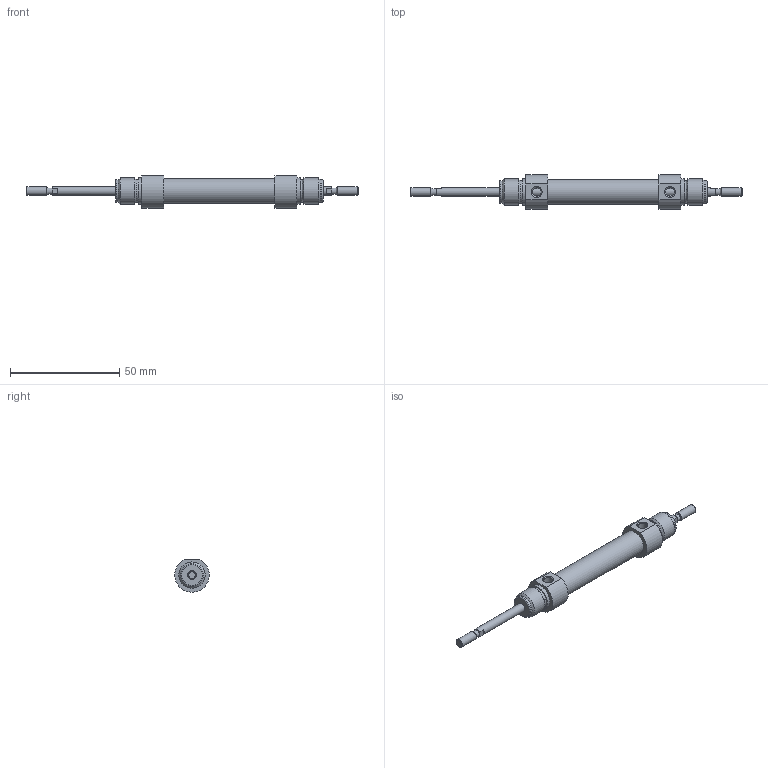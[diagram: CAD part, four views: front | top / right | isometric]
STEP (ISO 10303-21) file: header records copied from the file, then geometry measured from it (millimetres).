
FILE_DESCRIPTION( ( 'STEP AP203' ), '1' );
FILE_NAME( '//expscmdclustefs.cadenas.external/client_exchange/iodir/jobs/output/wkb68271077_no0/STEP/M101-010-0025--__0__2_03.stp', ' ', ( ' ' ), ( ' ' ), 'PSStep 15.0.47', 'PARTsolutions', ' ' );
FILE_SCHEMA( ( 'CONFIG_CONTROL_DESIGN' ) );
Length unit declared in the file: millimetre
Products named in the file (3): M101-010-0025-- [0]; HI_M101-010-0025---[0]-z; HI_M101-010-0025---[0]-k
Assembly tree (2 placements, depth 2):
  M101-010-0025-- [0]
    HI_M101-010-0025---[0]-z
    HI_M101-010-0025---[0]-k
Bounding box: 152 x 15.77 x 14.87 mm (x, y, z)
Volume: 10380.7 mm3; surface area: 8337.4 mm2
Topology: 2 solids, 2 shells, 71 faces, 145 edges, 88 vertices
Faces by surface type: plane 32, cylinder 23, cone 14, torus 2
Full cylindrical faces by diameter (mm): 3.141 x2, 4 x6, 4.134 x2, 10 x2, 10.466 x4, 11.3 x1, 12 x4
Entity records: 1838 total; most frequent: CARTESIAN_POINT 358, DIRECTION 312, ORIENTED_EDGE 212, AXIS2_PLACEMENT_3D 140, EDGE_LOOP 120, EDGE_CURVE 106, FACE_OUTER_BOUND 94, VERTEX_POINT 82
